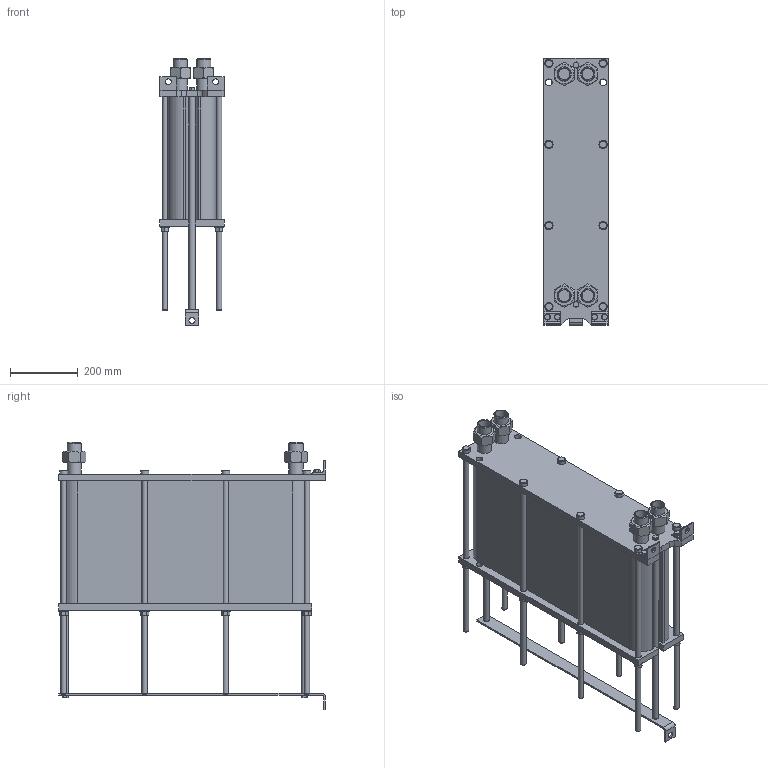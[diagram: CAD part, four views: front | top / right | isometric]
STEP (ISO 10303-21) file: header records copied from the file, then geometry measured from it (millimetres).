
FILE_DESCRIPTION(/* description */ (''),/* implementation_level */ '2;1');
FILE_NAME(/* name */ 'C:\Users\zhuro\Desktop\ENCO\TO\ЭН-008\ЭН-0,5-008-117-1.stp',/* time_stamp */ '2022-06-06T10:56:32+03:00',/* author */ ('zhuro'),/* organization */ (''),/* preprocessor_version */ 'ST-DEVELOPER v18.1',/* originating_system */ 'Autodesk Inventor 2022',/* authorisation */ '');
FILE_SCHEMA (('AUTOMOTIVE_DESIGN { 1 0 10303 214 3 1 1 }'));
Length unit declared in the file: millimetre
Products named in the file (1): ЭН-0,5-008-117-1
Bounding box: 190 x 790 x 790.6 mm (x, y, z)
Volume: 44014811.7 mm3; surface area: 2165324.9 mm2
Topology: 40 solids, 40 shells, 428 faces, 924 edges, 606 vertices
Faces by surface type: plane 273, cylinder 109, cone 40, torus 6
Full cylindrical faces by diameter (mm): 12 x6, 14 x2, 16 x20, 17 x8, 18 x19, 20 x5, 24 x8, 28 x8, 34.3 x8, 42.3 x8
Entity records: 15843 total; most frequent: CARTESIAN_POINT 5991, DIRECTION 1984, ORIENTED_EDGE 1848, EDGE_CURVE 924, AXIS2_PLACEMENT_3D 715, VERTEX_POINT 606, LINE 554, VECTOR 554
